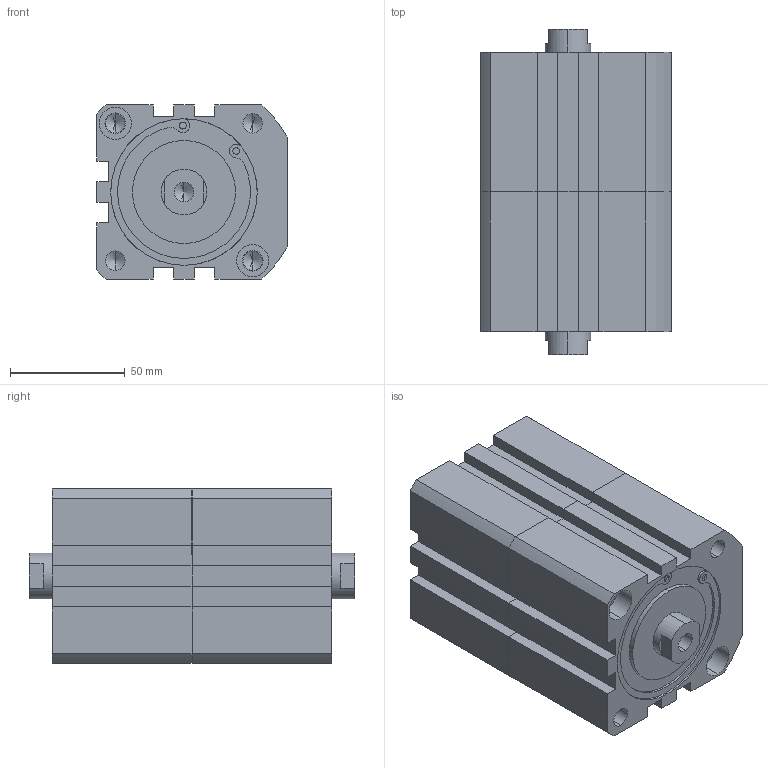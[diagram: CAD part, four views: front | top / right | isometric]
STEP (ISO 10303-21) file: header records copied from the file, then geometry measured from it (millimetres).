
FILE_DESCRIPTION (( 'STEP AP203' ), '1' );
FILE_NAME ('XGD7-63-10-10(L).STEP', '2016-08-05T01:45:10', ( '' ), ( '' ), 'SwSTEP 2.0', 'SolidWorks 2014', '' );
FILE_SCHEMA (( 'CONFIG_CONTROL_DESIGN' ));
Length unit declared in the file: millimetre
Products named in the file (2): XGD7(L)-63-10; XGD7-63-10-10(L)
Assembly tree (2 placements, depth 2):
  XGD7-63-10-10(L)
    XGD7(L)-63-10  x2
Bounding box: 83 x 142 x 76 mm (x, y, z)
Volume: 675095.4 mm3; surface area: 86323.6 mm2
Topology: 2 solids, 2 shells, 224 faces, 566 edges, 354 vertices
Faces by surface type: cylinder 96, plane 92, cone 36
Entity records: 3523 total; most frequent: DIRECTION 613, CARTESIAN_POINT 563, ORIENTED_EDGE 538, EDGE_CURVE 269, AXIS2_PLACEMENT_3D 227, VERTEX_POINT 177, VECTOR 159, LINE 159
